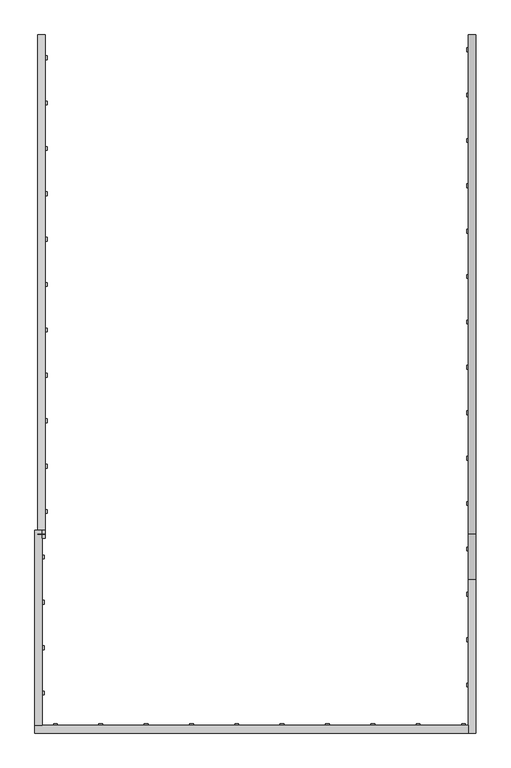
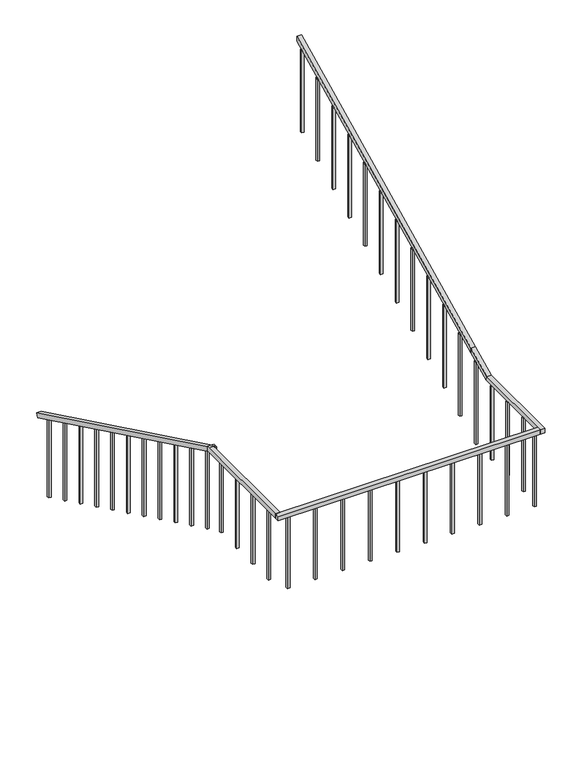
"""IFC4 building model written with IfcOpenShell, lengths in millimetres: railing geometry, ADSK_Стандартное_h 900 Поручень квадратный без направляющих."""

from ifc_helpers import new_model, si_unit, frame, origin, place, context, project, spatial, polyline, outline, extrude, faceted_brep, source, transform, mapped, element, save


def railing_037dd4ae(model_context):
    return source(origin(), model_context, "Body", "SolidModel", [
        faceted_brep([(-24826.9240021, -5926.3785186, 1045.8333333), (-24776.9240021, -5926.3785186, 1045.8333333), (-24776.9240021, -5948.238154, 1000.8649406), (-24826.9240021, -5948.238154, 1000.8649406), (-24826.9240021, -9226.3785186, 2650.0), (-24826.9240021, -9248.238154, 2605.0316073), (-24776.9240021, -9248.238154, 2605.0316073), (-24776.9240021, -9226.3785186, 2650.0)], [[[0, 1, 2, 3]], [[4, 5, 6, 7]], [[0, 3, 5, 4]], [[3, 2, 6, 5]], [[2, 1, 7, 6]], [[1, 0, 4, 7]]]),
        faceted_brep([(-24776.9240021, -9201.7785186, 2650.0), (-24776.9240021, -9251.7785186, 2650.0), (-24776.9240021, -9251.7785186, 2600.0), (-24776.9240021, -9201.7785186, 2600.0), (-24796.9240021, -9201.7785186, 2650.0), (-24796.9240021, -9201.7785186, 2600.0), (-24796.9240021, -9251.7785186, 2600.0), (-24796.9240021, -9251.7785186, 2650.0)], [[[0, 1, 2, 3]], [[4, 5, 6, 7]], [[0, 3, 5, 4]], [[3, 2, 6, 5]], [[2, 1, 7, 6]], [[1, 0, 4, 7]]]),
        faceted_brep([(-24846.9240021, -9201.7785186, 2650.0), (-24796.9240021, -9201.7785186, 2650.0), (-24796.9240021, -9201.7785186, 2600.0), (-24846.9240021, -9201.7785186, 2600.0), (-24846.9240021, -10490.5785186, 2650.0), (-24846.9240021, -10490.5785186, 2600.0), (-24796.9240021, -10490.5785186, 2600.0), (-24796.9240021, -10490.5785186, 2650.0)], [[[0, 1, 2, 3]], [[4, 5, 6, 7]], [[0, 3, 5, 4]], [[3, 2, 6, 5]], [[2, 1, 7, 6]], [[1, 0, 4, 7]]]),
        faceted_brep([(-24846.9240021, -10540.5785186, 2650.0), (-24846.9240021, -10490.5785186, 2650.0), (-24846.9240021, -10490.5785186, 2600.0), (-24846.9240021, -10540.5785186, 2600.0), (-21978.1240021, -10540.5785186, 2650.0), (-21978.1240021, -10540.5785186, 2600.0), (-21978.1240021, -10490.5785186, 2600.0), (-21978.1240021, -10490.5785186, 2650.0)], [[[0, 1, 2, 3]], [[4, 5, 6, 7]], [[0, 3, 5, 4]], [[3, 2, 6, 5]], [[2, 1, 7, 6]], [[1, 0, 4, 7]]]),
        faceted_brep([(-21928.1240021, -10540.5785186, 2650.0), (-21978.1240021, -10540.5785186, 2650.0), (-21978.1240021, -10540.5785186, 2600.0), (-21928.1240021, -10540.5785186, 2600.0), (-21928.1240021, -9514.8696183, 2600.0), (-21928.1240021, -9526.3785186, 2650.0), (-21978.1240021, -9514.8696183, 2600.0), (-21978.1240021, -9526.3785186, 2650.0), (-21928.1240021, -9226.3785186, 2795.8333333), (-21928.1240021, -9226.3785186, 2740.238729), (-21978.1240021, -9226.3785186, 2740.238729), (-21978.1240021, -9226.3785186, 2795.8333333)], [[[0, 1, 2, 3]], [[0, 3, 4, 5]], [[3, 2, 6, 4]], [[2, 1, 7, 6]], [[1, 0, 5, 7]], [[8, 9, 10, 11]], [[5, 4, 9, 8]], [[4, 6, 10, 9]], [[6, 7, 11, 10]], [[7, 5, 8, 11]]]),
        faceted_brep([(-21928.1240021, -9226.3785186, 2795.8333333), (-21978.1240021, -9226.3785186, 2795.8333333), (-21978.1240021, -9226.3785186, 2740.238729), (-21928.1240021, -9226.3785186, 2740.238729), (-21928.1240021, -5926.3785186, 4400.0), (-21928.1240021, -5926.3785186, 4344.4053957), (-21978.1240021, -5926.3785186, 4344.4053957), (-21978.1240021, -5926.3785186, 4400.0)], [[[0, 1, 2, 3]], [[4, 5, 6, 7]], [[0, 3, 5, 4]], [[3, 2, 6, 5]], [[2, 1, 7, 6]], [[1, 0, 4, 7]]]),
        extrude(outline(polyline([(-6036.0785186, 3354.1666667), (-6036.0785186, 4296.6736111), (-6011.0785186, 4308.8263889), (-6011.0785186, 3354.1666667), (-6036.0785186, 3354.1666667)])), frame((-21990.6240021, 0.0, 0.0), z_axis=(1.0, 0.0, 0.0), x_axis=(0.0, 1.0, 0.0)), (0.0, 0.0, 1.0), 25.0),
        extrude(outline(polyline([(-6336.0785186, 3208.3333333), (-6336.0785186, 4150.8402778), (-6311.0785186, 4162.9930556), (-6311.0785186, 3208.3333333), (-6336.0785186, 3208.3333333)])), frame((-21990.6240021, 0.0, 0.0), z_axis=(1.0, 0.0, 0.0), x_axis=(0.0, 1.0, 0.0)), (0.0, 0.0, 1.0), 25.0),
        extrude(outline(polyline([(-6636.0785186, 3062.5), (-6636.0785186, 4005.0069444), (-6611.0785186, 4017.1597222), (-6611.0785186, 3062.5), (-6636.0785186, 3062.5)])), frame((-21990.6240021, 0.0, 0.0), z_axis=(1.0, 0.0, 0.0), x_axis=(0.0, 1.0, 0.0)), (0.0, 0.0, 1.0), 25.0),
        extrude(outline(polyline([(-6936.0785186, 2916.6666667), (-6936.0785186, 3859.1736111), (-6911.0785186, 3871.3263889), (-6911.0785186, 2916.6666667), (-6936.0785186, 2916.6666667)])), frame((-21990.6240021, 0.0, 0.0), z_axis=(1.0, 0.0, 0.0), x_axis=(0.0, 1.0, 0.0)), (0.0, 0.0, 1.0), 25.0),
        extrude(outline(polyline([(-7236.0785186, 2770.8333333), (-7236.0785186, 3713.3402778), (-7211.0785186, 3725.4930556), (-7211.0785186, 2770.8333333), (-7236.0785186, 2770.8333333)])), frame((-21990.6240021, 0.0, 0.0), z_axis=(1.0, 0.0, 0.0), x_axis=(0.0, 1.0, 0.0)), (0.0, 0.0, 1.0), 25.0),
        extrude(outline(polyline([(-7536.0785186, 2625.0), (-7536.0785186, 3567.5069444), (-7511.0785186, 3579.6597222), (-7511.0785186, 2625.0), (-7536.0785186, 2625.0)])), frame((-21990.6240021, 0.0, 0.0), z_axis=(1.0, 0.0, 0.0), x_axis=(0.0, 1.0, 0.0)), (0.0, 0.0, 1.0), 25.0),
        extrude(outline(polyline([(-7836.0785186, 2479.1666667), (-7836.0785186, 3421.6736111), (-7811.0785186, 3433.8263889), (-7811.0785186, 2479.1666667), (-7836.0785186, 2479.1666667)])), frame((-21990.6240021, 0.0, 0.0), z_axis=(1.0, 0.0, 0.0), x_axis=(0.0, 1.0, 0.0)), (0.0, 0.0, 1.0), 25.0),
        extrude(outline(polyline([(-8136.0785186, 2333.3333333), (-8136.0785186, 3275.8402778), (-8111.0785186, 3287.9930556), (-8111.0785186, 2333.3333333), (-8136.0785186, 2333.3333333)])), frame((-21990.6240021, 0.0, 0.0), z_axis=(1.0, 0.0, 0.0), x_axis=(0.0, 1.0, 0.0)), (0.0, 0.0, 1.0), 25.0),
        extrude(outline(polyline([(-8436.0785186, 2187.5), (-8436.0785186, 3130.0069444), (-8411.0785186, 3142.1597222), (-8411.0785186, 2187.5), (-8436.0785186, 2187.5)])), frame((-21990.6240021, 0.0, 0.0), z_axis=(1.0, 0.0, 0.0), x_axis=(0.0, 1.0, 0.0)), (0.0, 0.0, 1.0), 25.0),
        extrude(outline(polyline([(-8736.0785186, 2041.6666667), (-8736.0785186, 2984.1736111), (-8711.0785186, 2996.3263889), (-8711.0785186, 2041.6666667), (-8736.0785186, 2041.6666667)])), frame((-21990.6240021, 0.0, 0.0), z_axis=(1.0, 0.0, 0.0), x_axis=(0.0, 1.0, 0.0)), (0.0, 0.0, 1.0), 25.0),
        extrude(outline(polyline([(-9036.0785186, 1895.8333333), (-9036.0785186, 2838.3402778), (-9011.0785186, 2850.4930556), (-9011.0785186, 1895.8333333), (-9036.0785186, 1895.8333333)])), frame((-21990.6240021, 0.0, 0.0), z_axis=(1.0, 0.0, 0.0), x_axis=(0.0, 1.0, 0.0)), (0.0, 0.0, 1.0), 25.0),
        extrude(outline(polyline([(-9336.0785186, 1750.0), (-9336.0785186, 2692.5069444), (-9311.0785186, 2704.6597222), (-9311.0785186, 1750.0), (-9336.0785186, 1750.0)])), frame((-21990.6240021, 0.0, 0.0), z_axis=(1.0, 0.0, 0.0), x_axis=(0.0, 1.0, 0.0)), (0.0, 0.0, 1.0), 25.0),
        extrude(outline(polyline([(-21965.6240021, -9636.0785186), (-21990.6240021, -9636.0785186), (-21990.6240021, -9611.0785186), (-21965.6240021, -9611.0785186), (-21965.6240021, -9636.0785186)])), frame((0.0, 0.0, 1750.0), z_axis=(0.0, 0.0, 1.0), x_axis=(1.0, 0.0, 0.0)), (0.0, 0.0, 1.0), 850.0),
        extrude(outline(polyline([(-21965.6240021, -9936.0785186), (-21990.6240021, -9936.0785186), (-21990.6240021, -9911.0785186), (-21965.6240021, -9911.0785186), (-21965.6240021, -9936.0785186)])), frame((0.0, 0.0, 1750.0), z_axis=(0.0, 0.0, 1.0), x_axis=(1.0, 0.0, 0.0)), (0.0, 0.0, 1.0), 850.0),
        extrude(outline(polyline([(-21965.6240021, -10236.0785186), (-21990.6240021, -10236.0785186), (-21990.6240021, -10211.0785186), (-21965.6240021, -10211.0785186), (-21965.6240021, -10236.0785186)])), frame((0.0, 0.0, 1750.0), z_axis=(0.0, 0.0, 1.0), x_axis=(1.0, 0.0, 0.0)), (0.0, 0.0, 1.0), 850.0),
        extrude(outline(polyline([(-22023.6240021, -10503.0785186), (-22023.6240021, -10478.0785186), (-21998.6240021, -10478.0785186), (-21998.6240021, -10503.0785186), (-22023.6240021, -10503.0785186)])), frame((0.0, 0.0, 1750.0), z_axis=(0.0, 0.0, 1.0), x_axis=(1.0, 0.0, 0.0)), (0.0, 0.0, 1.0), 850.0),
        extrude(outline(polyline([(-22323.6240021, -10503.0785186), (-22323.6240021, -10478.0785186), (-22298.6240021, -10478.0785186), (-22298.6240021, -10503.0785186), (-22323.6240021, -10503.0785186)])), frame((0.0, 0.0, 1750.0), z_axis=(0.0, 0.0, 1.0), x_axis=(1.0, 0.0, 0.0)), (0.0, 0.0, 1.0), 850.0),
        extrude(outline(polyline([(-22623.6240021, -10503.0785186), (-22623.6240021, -10478.0785186), (-22598.6240021, -10478.0785186), (-22598.6240021, -10503.0785186), (-22623.6240021, -10503.0785186)])), frame((0.0, 0.0, 1750.0), z_axis=(0.0, 0.0, 1.0), x_axis=(1.0, 0.0, 0.0)), (0.0, 0.0, 1.0), 850.0),
        extrude(outline(polyline([(-22923.6240021, -10503.0785186), (-22923.6240021, -10478.0785186), (-22898.6240021, -10478.0785186), (-22898.6240021, -10503.0785186), (-22923.6240021, -10503.0785186)])), frame((0.0, 0.0, 1750.0), z_axis=(0.0, 0.0, 1.0), x_axis=(1.0, 0.0, 0.0)), (0.0, 0.0, 1.0), 850.0),
        extrude(outline(polyline([(-23223.6240021, -10503.0785186), (-23223.6240021, -10478.0785186), (-23198.6240021, -10478.0785186), (-23198.6240021, -10503.0785186), (-23223.6240021, -10503.0785186)])), frame((0.0, 0.0, 1750.0), z_axis=(0.0, 0.0, 1.0), x_axis=(1.0, 0.0, 0.0)), (0.0, 0.0, 1.0), 850.0),
        extrude(outline(polyline([(-23523.6240021, -10503.0785186), (-23523.6240021, -10478.0785186), (-23498.6240021, -10478.0785186), (-23498.6240021, -10503.0785186), (-23523.6240021, -10503.0785186)])), frame((0.0, 0.0, 1750.0), z_axis=(0.0, 0.0, 1.0), x_axis=(1.0, 0.0, 0.0)), (0.0, 0.0, 1.0), 850.0),
        extrude(outline(polyline([(-23823.6240021, -10503.0785186), (-23823.6240021, -10478.0785186), (-23798.6240021, -10478.0785186), (-23798.6240021, -10503.0785186), (-23823.6240021, -10503.0785186)])), frame((0.0, 0.0, 1750.0), z_axis=(0.0, 0.0, 1.0), x_axis=(1.0, 0.0, 0.0)), (0.0, 0.0, 1.0), 850.0),
        extrude(outline(polyline([(-24123.6240021, -10503.0785186), (-24123.6240021, -10478.0785186), (-24098.6240021, -10478.0785186), (-24098.6240021, -10503.0785186), (-24123.6240021, -10503.0785186)])), frame((0.0, 0.0, 1750.0), z_axis=(0.0, 0.0, 1.0), x_axis=(1.0, 0.0, 0.0)), (0.0, 0.0, 1.0), 850.0),
        extrude(outline(polyline([(-24423.6240021, -10503.0785186), (-24423.6240021, -10478.0785186), (-24398.6240021, -10478.0785186), (-24398.6240021, -10503.0785186), (-24423.6240021, -10503.0785186)])), frame((0.0, 0.0, 1750.0), z_axis=(0.0, 0.0, 1.0), x_axis=(1.0, 0.0, 0.0)), (0.0, 0.0, 1.0), 850.0),
        extrude(outline(polyline([(-24723.6240021, -10503.0785186), (-24723.6240021, -10478.0785186), (-24698.6240021, -10478.0785186), (-24698.6240021, -10503.0785186), (-24723.6240021, -10503.0785186)])), frame((0.0, 0.0, 1750.0), z_axis=(0.0, 0.0, 1.0), x_axis=(1.0, 0.0, 0.0)), (0.0, 0.0, 1.0), 850.0),
        extrude(outline(polyline([(-24809.4240021, -10263.8785186), (-24784.4240021, -10263.8785186), (-24784.4240021, -10288.8785186), (-24809.4240021, -10288.8785186), (-24809.4240021, -10263.8785186)])), frame((0.0, 0.0, 1750.0), z_axis=(0.0, 0.0, 1.0), x_axis=(1.0, 0.0, 0.0)), (0.0, 0.0, 1.0), 850.0),
        extrude(outline(polyline([(-24809.4240021, -9963.8785186), (-24784.4240021, -9963.8785186), (-24784.4240021, -9988.8785186), (-24809.4240021, -9988.8785186), (-24809.4240021, -9963.8785186)])), frame((0.0, 0.0, 1750.0), z_axis=(0.0, 0.0, 1.0), x_axis=(1.0, 0.0, 0.0)), (0.0, 0.0, 1.0), 850.0),
        extrude(outline(polyline([(-24809.4240021, -9663.8785186), (-24784.4240021, -9663.8785186), (-24784.4240021, -9688.8785186), (-24809.4240021, -9688.8785186), (-24809.4240021, -9663.8785186)])), frame((0.0, 0.0, 1750.0), z_axis=(0.0, 0.0, 1.0), x_axis=(1.0, 0.0, 0.0)), (0.0, 0.0, 1.0), 850.0),
        extrude(outline(polyline([(-24809.4240021, -9363.8785186), (-24784.4240021, -9363.8785186), (-24784.4240021, -9388.8785186), (-24809.4240021, -9388.8785186), (-24809.4240021, -9363.8785186)])), frame((0.0, 0.0, 1750.0), z_axis=(0.0, 0.0, 1.0), x_axis=(1.0, 0.0, 0.0)), (0.0, 0.0, 1.0), 850.0),
        extrude(outline(polyline([(-9063.8785186, 2521.0069444), (-9063.8785186, 1604.1666667), (-9088.8785186, 1604.1666667), (-9088.8785186, 2533.1597222), (-9063.8785186, 2521.0069444)])), frame((-24789.4240021, 0.0, 0.0), z_axis=(1.0, 0.0, 0.0), x_axis=(0.0, 1.0, 0.0)), (0.0, 0.0, 1.0), 25.0),
        extrude(outline(polyline([(-8763.8785186, 2375.1736111), (-8763.8785186, 1458.3333333), (-8788.8785186, 1458.3333333), (-8788.8785186, 2387.3263889), (-8763.8785186, 2375.1736111)])), frame((-24789.4240021, 0.0, 0.0), z_axis=(1.0, 0.0, 0.0), x_axis=(0.0, 1.0, 0.0)), (0.0, 0.0, 1.0), 25.0),
        extrude(outline(polyline([(-8463.8785186, 2229.3402778), (-8463.8785186, 1312.5), (-8488.8785186, 1312.5), (-8488.8785186, 2241.4930556), (-8463.8785186, 2229.3402778)])), frame((-24789.4240021, 0.0, 0.0), z_axis=(1.0, 0.0, 0.0), x_axis=(0.0, 1.0, 0.0)), (0.0, 0.0, 1.0), 25.0),
        extrude(outline(polyline([(-8163.8785186, 2083.5069444), (-8163.8785186, 1166.6666667), (-8188.8785186, 1166.6666667), (-8188.8785186, 2095.6597222), (-8163.8785186, 2083.5069444)])), frame((-24789.4240021, 0.0, 0.0), z_axis=(1.0, 0.0, 0.0), x_axis=(0.0, 1.0, 0.0)), (0.0, 0.0, 1.0), 25.0),
        extrude(outline(polyline([(-7863.8785186, 1937.6736111), (-7863.8785186, 1020.8333333), (-7888.8785186, 1020.8333333), (-7888.8785186, 1949.8263889), (-7863.8785186, 1937.6736111)])), frame((-24789.4240021, 0.0, 0.0), z_axis=(1.0, 0.0, 0.0), x_axis=(0.0, 1.0, 0.0)), (0.0, 0.0, 1.0), 25.0),
        extrude(outline(polyline([(-7563.8785186, 1791.8402778), (-7563.8785186, 875.0), (-7588.8785186, 875.0), (-7588.8785186, 1803.9930556), (-7563.8785186, 1791.8402778)])), frame((-24789.4240021, 0.0, 0.0), z_axis=(1.0, 0.0, 0.0), x_axis=(0.0, 1.0, 0.0)), (0.0, 0.0, 1.0), 25.0),
        extrude(outline(polyline([(-7263.8785186, 1646.0069444), (-7263.8785186, 729.1666667), (-7288.8785186, 729.1666667), (-7288.8785186, 1658.1597222), (-7263.8785186, 1646.0069444)])), frame((-24789.4240021, 0.0, 0.0), z_axis=(1.0, 0.0, 0.0), x_axis=(0.0, 1.0, 0.0)), (0.0, 0.0, 1.0), 25.0),
        extrude(outline(polyline([(-6963.8785186, 1500.1736111), (-6963.8785186, 583.3333333), (-6988.8785186, 583.3333333), (-6988.8785186, 1512.3263889), (-6963.8785186, 1500.1736111)])), frame((-24789.4240021, 0.0, 0.0), z_axis=(1.0, 0.0, 0.0), x_axis=(0.0, 1.0, 0.0)), (0.0, 0.0, 1.0), 25.0),
        extrude(outline(polyline([(-6663.8785186, 1354.3402778), (-6663.8785186, 437.5), (-6688.8785186, 437.5), (-6688.8785186, 1366.4930556), (-6663.8785186, 1354.3402778)])), frame((-24789.4240021, 0.0, 0.0), z_axis=(1.0, 0.0, 0.0), x_axis=(0.0, 1.0, 0.0)), (0.0, 0.0, 1.0), 25.0),
        extrude(outline(polyline([(-6363.8785186, 1208.5069444), (-6363.8785186, 291.6666667), (-6388.8785186, 291.6666667), (-6388.8785186, 1220.6597222), (-6363.8785186, 1208.5069444)])), frame((-24789.4240021, 0.0, 0.0), z_axis=(1.0, 0.0, 0.0), x_axis=(0.0, 1.0, 0.0)), (0.0, 0.0, 1.0), 25.0),
        extrude(outline(polyline([(-6063.8785186, 1062.6736111), (-6063.8785186, 145.8333333), (-6088.8785186, 145.8333333), (-6088.8785186, 1074.8263889), (-6063.8785186, 1062.6736111)])), frame((-24789.4240021, 0.0, 0.0), z_axis=(1.0, 0.0, 0.0), x_axis=(0.0, 1.0, 0.0)), (0.0, 0.0, 1.0), 25.0),
    ])


if __name__ == "__main__":
    model = new_model("IFC4")
    model_context = context("Model", 3, world=origin())
    ifc_project = project(units=[si_unit("LENGTHUNIT", "METRE", prefix="MILLI")], contexts=[model_context])
    site = spatial("IfcSite", under=ifc_project)
    building = spatial("IfcBuilding", under=site)
    placement = place(None, origin())
    railing_shape = railing_037dd4ae(model_context)
    element("IfcRailing", 1, ObjectType="ADSK_Стандартное_h 900 Поручень квадратный без направляющих", at=placement, inside=building, context=model_context, shape_type="MappedRepresentation", body=[
        mapped(railing_shape, transform((0.0, 0.0, 0.0), x_axis=(1.0, 0.0, 0.0), y_axis=(0.0, 1.0, 0.0), z_axis=(0.0, 0.0, 1.0))),
    ])
    save(model, "model.ifc")
